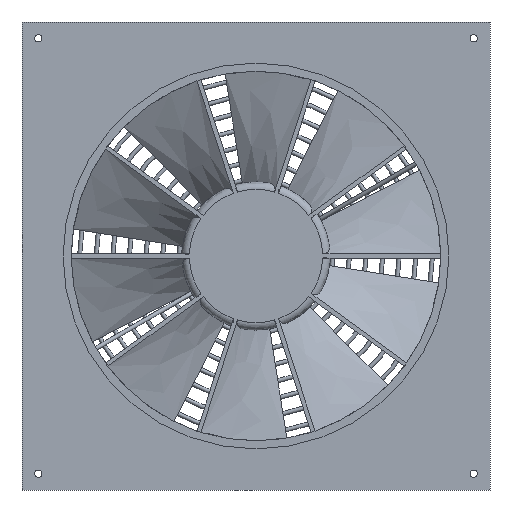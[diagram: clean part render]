
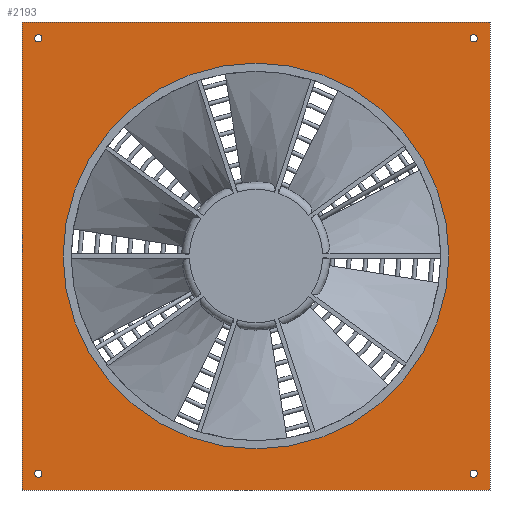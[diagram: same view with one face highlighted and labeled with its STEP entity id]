
A CAD part, front view. The second image highlights one B-rep face of the part: STEP entity #2193.
In plain terms, the highlighted planar face has unit normal (0, -1, 0).
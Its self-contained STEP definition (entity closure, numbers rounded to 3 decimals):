
#73=FACE_BOUND('',#680,.T.);
#74=FACE_BOUND('',#681,.T.);
#75=FACE_BOUND('',#682,.T.);
#76=FACE_BOUND('',#683,.T.);
#77=FACE_BOUND('',#684,.T.);
#105=PLANE('',#2412);
#298=LINE('',#4659,#389);
#300=LINE('',#4666,#391);
#302=LINE('',#4672,#393);
#303=LINE('',#4674,#394);
#389=VECTOR('',#2762,10.);
#391=VECTOR('',#2770,10.);
#393=VECTOR('',#2776,10.);
#394=VECTOR('',#2779,10.);
#560=FACE_OUTER_BOUND('',#679,.T.);
#679=EDGE_LOOP('',(#2063,#2064,#2065,#2066));
#680=EDGE_LOOP('',(#2067,#2068));
#681=EDGE_LOOP('',(#2069,#2070));
#682=EDGE_LOOP('',(#2071,#2072));
#683=EDGE_LOOP('',(#2073,#2074));
#684=EDGE_LOOP('',(#2075));
#790=CIRCLE('',#2395,4.5);
#791=CIRCLE('',#2396,4.5);
#792=CIRCLE('',#2398,4.5);
#793=CIRCLE('',#2399,4.5);
#794=CIRCLE('',#2401,4.5);
#795=CIRCLE('',#2402,4.5);
#796=CIRCLE('',#2404,4.5);
#797=CIRCLE('',#2405,4.5);
#799=CIRCLE('',#2408,237.);
#997=VERTEX_POINT('',#4656);
#998=VERTEX_POINT('',#4658);
#1000=VERTEX_POINT('',#4664);
#1002=VERTEX_POINT('',#4670);
#1007=VERTEX_POINT('',#5474);
#1008=VERTEX_POINT('',#5475);
#1009=VERTEX_POINT('',#5480);
#1010=VERTEX_POINT('',#5481);
#1011=VERTEX_POINT('',#5486);
#1012=VERTEX_POINT('',#5487);
#1013=VERTEX_POINT('',#5492);
#1014=VERTEX_POINT('',#5493);
#1016=VERTEX_POINT('',#5500);
#1288=EDGE_CURVE('',#998,#997,#298,.T.);
#1292=EDGE_CURVE('',#997,#1000,#300,.T.);
#1295=EDGE_CURVE('',#1000,#1002,#302,.T.);
#1296=EDGE_CURVE('',#1002,#998,#303,.T.);
#1354=EDGE_CURVE('',#1007,#1008,#790,.T.);
#1355=EDGE_CURVE('',#1008,#1007,#791,.T.);
#1357=EDGE_CURVE('',#1009,#1010,#792,.T.);
#1358=EDGE_CURVE('',#1010,#1009,#793,.T.);
#1360=EDGE_CURVE('',#1011,#1012,#794,.T.);
#1361=EDGE_CURVE('',#1012,#1011,#795,.T.);
#1363=EDGE_CURVE('',#1013,#1014,#796,.T.);
#1364=EDGE_CURVE('',#1014,#1013,#797,.T.);
#1368=EDGE_CURVE('',#1016,#1016,#799,.T.);
#2063=ORIENTED_EDGE('',*,*,#1288,.T.);
#2064=ORIENTED_EDGE('',*,*,#1292,.T.);
#2065=ORIENTED_EDGE('',*,*,#1295,.T.);
#2066=ORIENTED_EDGE('',*,*,#1296,.T.);
#2067=ORIENTED_EDGE('',*,*,#1354,.T.);
#2068=ORIENTED_EDGE('',*,*,#1355,.T.);
#2069=ORIENTED_EDGE('',*,*,#1357,.T.);
#2070=ORIENTED_EDGE('',*,*,#1358,.T.);
#2071=ORIENTED_EDGE('',*,*,#1360,.T.);
#2072=ORIENTED_EDGE('',*,*,#1361,.T.);
#2073=ORIENTED_EDGE('',*,*,#1363,.T.);
#2074=ORIENTED_EDGE('',*,*,#1364,.T.);
#2075=ORIENTED_EDGE('',*,*,#1368,.T.);
#2193=ADVANCED_FACE('',(#560,#73,#74,#75,#76,#77),#105,.F.);
#2395=AXIS2_PLACEMENT_3D('',#5476,#2847,#2848);
#2396=AXIS2_PLACEMENT_3D('',#5477,#2849,#2850);
#2398=AXIS2_PLACEMENT_3D('',#5482,#2854,#2855);
#2399=AXIS2_PLACEMENT_3D('',#5483,#2856,#2857);
#2401=AXIS2_PLACEMENT_3D('',#5488,#2861,#2862);
#2402=AXIS2_PLACEMENT_3D('',#5489,#2863,#2864);
#2404=AXIS2_PLACEMENT_3D('',#5494,#2868,#2869);
#2405=AXIS2_PLACEMENT_3D('',#5495,#2870,#2871);
#2408=AXIS2_PLACEMENT_3D('',#5502,#2878,#2879);
#2412=AXIS2_PLACEMENT_3D('',#5506,#2886,#2887);
#2762=DIRECTION('',(1.,0.,0.));
#2770=DIRECTION('',(0.,0.,1.));
#2776=DIRECTION('',(-1.,0.,0.));
#2779=DIRECTION('',(0.,0.,-1.));
#2847=DIRECTION('center_axis',(0.,1.,0.));
#2848=DIRECTION('ref_axis',(1.,0.,0.));
#2849=DIRECTION('center_axis',(0.,1.,0.));
#2850=DIRECTION('ref_axis',(1.,0.,0.));
#2854=DIRECTION('center_axis',(0.,1.,0.));
#2855=DIRECTION('ref_axis',(1.,0.,0.));
#2856=DIRECTION('center_axis',(0.,1.,0.));
#2857=DIRECTION('ref_axis',(1.,0.,0.));
#2861=DIRECTION('center_axis',(0.,1.,0.));
#2862=DIRECTION('ref_axis',(1.,0.,0.));
#2863=DIRECTION('center_axis',(0.,1.,0.));
#2864=DIRECTION('ref_axis',(1.,0.,0.));
#2868=DIRECTION('center_axis',(0.,1.,0.));
#2869=DIRECTION('ref_axis',(1.,0.,0.));
#2870=DIRECTION('center_axis',(0.,1.,0.));
#2871=DIRECTION('ref_axis',(1.,0.,0.));
#2878=DIRECTION('center_axis',(0.,1.,0.));
#2879=DIRECTION('ref_axis',(-1.,0.,0.));
#2886=DIRECTION('center_axis',(0.,1.,0.));
#2887=DIRECTION('ref_axis',(0.,0.,1.));
#4656=CARTESIAN_POINT('',(287.5,0.,-287.5));
#4658=CARTESIAN_POINT('',(-287.5,0.,-287.5));
#4659=CARTESIAN_POINT('',(-287.5,0.,-287.5));
#4664=CARTESIAN_POINT('',(287.5,0.,287.5));
#4666=CARTESIAN_POINT('',(287.5,0.,-287.5));
#4670=CARTESIAN_POINT('',(-287.5,0.,287.5));
#4672=CARTESIAN_POINT('',(287.5,0.,287.5));
#4674=CARTESIAN_POINT('',(-287.5,0.,287.5));
#5474=CARTESIAN_POINT('',(-263.,0.,-267.5));
#5475=CARTESIAN_POINT('',(-272.,0.,-267.5));
#5476=CARTESIAN_POINT('Origin',(-267.5,0.,-267.5));
#5477=CARTESIAN_POINT('Origin',(-267.5,0.,-267.5));
#5480=CARTESIAN_POINT('',(272.,0.,267.5));
#5481=CARTESIAN_POINT('',(263.,0.,267.5));
#5482=CARTESIAN_POINT('Origin',(267.5,0.,267.5));
#5483=CARTESIAN_POINT('Origin',(267.5,0.,267.5));
#5486=CARTESIAN_POINT('',(272.,0.,-267.5));
#5487=CARTESIAN_POINT('',(263.,0.,-267.5));
#5488=CARTESIAN_POINT('Origin',(267.5,0.,-267.5));
#5489=CARTESIAN_POINT('Origin',(267.5,0.,-267.5));
#5492=CARTESIAN_POINT('',(-263.,0.,267.5));
#5493=CARTESIAN_POINT('',(-272.,0.,267.5));
#5494=CARTESIAN_POINT('Origin',(-267.5,0.,267.5));
#5495=CARTESIAN_POINT('Origin',(-267.5,0.,267.5));
#5500=CARTESIAN_POINT('',(237.,0.,0.));
#5502=CARTESIAN_POINT('Origin',(0.,0.,0.));
#5506=CARTESIAN_POINT('Origin',(0.,0.,0.));
